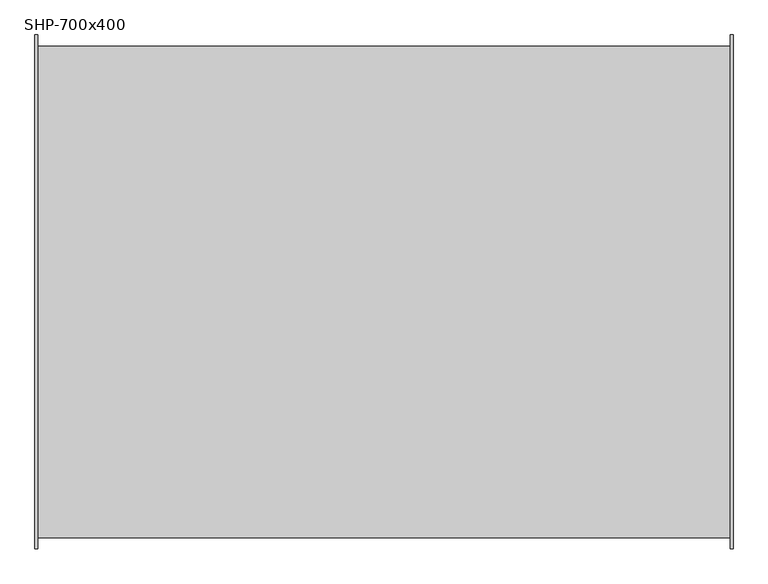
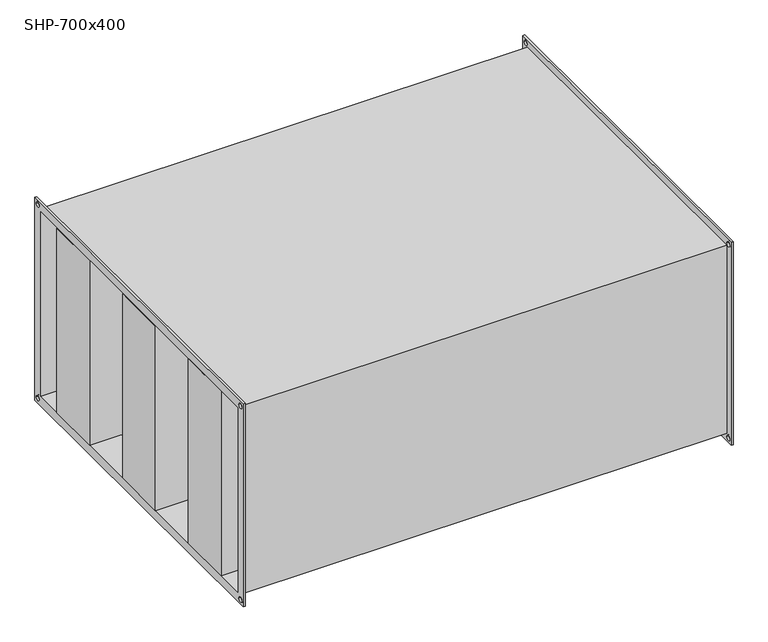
"""IFC4 building model written with IfcOpenShell, lengths in millimetres: damper geometry, СВ_Шумоглушитель_КанальныйПрямоугольный_200-1000_SHP : SHP-700x400."""

from ifc_helpers import new_model, si_unit, frame, origin, place, context, project, spatial, polyline, circle_curve, outline, extrude, source, transform, mapped, element, save
from ifc_brep_helpers import plane_surface, revolved_surface, advanced_brep


def shp_700x400_b8248500(model_context):
    return source(origin(), model_context, "Body", "SolidModel", [
        extrude(outline(polyline([(502.5, 291.6666667), (502.5, 175.0), (-502.5, 175.0), (-502.5, 291.6666667), (502.5, 291.6666667)])), frame((0.0, 0.0, -200.0), z_axis=(0.0, 0.0, 1.0), x_axis=(1.0, 0.0, 0.0)), (0.0, 0.0, 1.0), 400.0),
        extrude(outline(polyline([(502.5, 58.3333333), (502.5, -58.3333333), (-502.5, -58.3333333), (-502.5, 58.3333333), (502.5, 58.3333333)])), frame((0.0, 0.0, -200.0), z_axis=(0.0, 0.0, 1.0), x_axis=(1.0, 0.0, 0.0)), (0.0, 0.0, 1.0), 400.0),
        extrude(outline(polyline([(502.5, -175.0), (502.5, -291.6666667), (-502.5, -291.6666667), (-502.5, -175.0), (502.5, -175.0)])), frame((0.0, 0.0, -200.0), z_axis=(0.0, 0.0, 1.0), x_axis=(1.0, 0.0, 0.0)), (0.0, 0.0, 1.0), 400.0),
        advanced_brep(
        [(498.5, -354.0, 204.0), (-498.5, -354.0, 204.0), (-498.5, -354.0, -204.0), (498.5, -354.0, -204.0), (-498.5, 354.0, -204.0), (498.5, 354.0, -204.0), (-498.5, 354.0, 204.0), (498.5, 354.0, 204.0), (-502.5, -370.0, 220.0), (-502.5, 370.0, 220.0), (-502.5, 370.0, -220.0), (-502.5, -370.0, -220.0), (-502.5, -350.0, 200.0), (-502.5, -350.0, -200.0), (-502.5, 350.0, -200.0), (-502.5, 350.0, 200.0), (-502.5, 355.0, 210.0), (-502.5, 365.0, 210.0), (-502.5, -365.0, 210.0), (-502.5, -355.0, 210.0), (-502.5, -365.0, -210.0), (-502.5, -355.0, -210.0), (-502.5, 355.0, -210.0), (-502.5, 365.0, -210.0), (-498.5, -370.0, 220.0), (-498.5, -370.0, -220.0), (-498.5, 370.0, -220.0), (-498.5, 370.0, 220.0), (-498.5, 365.0, 210.0), (-498.5, 355.0, 210.0), (-498.5, -355.0, 210.0), (-498.5, -365.0, 210.0), (-498.5, -355.0, -210.0), (-498.5, -365.0, -210.0), (-498.5, 365.0, -210.0), (-498.5, 355.0, -210.0), (498.5, 370.0, 220.0), (498.5, 370.0, -220.0), (498.5, -370.0, -220.0), (498.5, -370.0, 220.0), (498.5, 355.0, 210.0), (498.5, 365.0, 210.0), (498.5, -365.0, 210.0), (498.5, -355.0, 210.0), (498.5, -365.0, -210.0), (498.5, -355.0, -210.0), (498.5, 355.0, -210.0), (498.5, 365.0, -210.0), (502.5, 370.0, 220.0), (502.5, -370.0, 220.0), (502.5, -370.0, -220.0), (502.5, 370.0, -220.0), (502.5, 350.0, 200.0), (502.5, 350.0, -200.0), (502.5, -350.0, -200.0), (502.5, -350.0, 200.0), (502.5, 365.0, 210.0), (502.5, 355.0, 210.0), (502.5, -355.0, 210.0), (502.5, -365.0, 210.0), (502.5, -355.0, -210.0), (502.5, -365.0, -210.0), (502.5, 365.0, -210.0), (502.5, 355.0, -210.0)],
        [
            (0, 1),
            (1, 2),
            (2, 3),
            (3, 0),
            (2, 4),
            (4, 5),
            (5, 3),
            (4, 6),
            (6, 7),
            (7, 5),
            (0, 7),
            (6, 1),
            (8, 9),
            (9, 10),
            (10, 11),
            (11, 8),
            (12, 13),
            (13, 14),
            (14, 15),
            (15, 12),
            (16, 17, circle_curve(frame((-502.5, 360.0, 210.0), z_axis=(1.0, 0.0, 0.0), x_axis=(0.0, 1.0, 0.0)), 5.0)),
            (17, 16, circle_curve(frame((-502.5, 360.0, 210.0), z_axis=(1.0, 0.0, 0.0), x_axis=(0.0, 1.0, 0.0)), 5.0)),
            (18, 19, circle_curve(frame((-502.5, -360.0, 210.0), z_axis=(1.0, 0.0, 0.0), x_axis=(0.0, 1.0, 0.0)), 5.0)),
            (19, 18, circle_curve(frame((-502.5, -360.0, 210.0), z_axis=(1.0, 0.0, 0.0), x_axis=(0.0, 1.0, 0.0)), 5.0)),
            (20, 21, circle_curve(frame((-502.5, -360.0, -210.0), z_axis=(1.0, 0.0, 0.0), x_axis=(0.0, 1.0, 0.0)), 5.0)),
            (21, 20, circle_curve(frame((-502.5, -360.0, -210.0), z_axis=(1.0, 0.0, 0.0), x_axis=(0.0, 1.0, 0.0)), 5.0)),
            (22, 23, circle_curve(frame((-502.5, 360.0, -210.0), z_axis=(1.0, 0.0, 0.0), x_axis=(0.0, 1.0, 0.0)), 5.0)),
            (23, 22, circle_curve(frame((-502.5, 360.0, -210.0), z_axis=(1.0, 0.0, 0.0), x_axis=(0.0, 1.0, 0.0)), 5.0)),
            (24, 25),
            (25, 26),
            (26, 27),
            (27, 24),
            (28, 29, circle_curve(frame((-498.5, 360.0, 210.0), z_axis=(-1.0, 0.0, 0.0), x_axis=(0.0, 1.0, 0.0)), 5.0)),
            (29, 28, circle_curve(frame((-498.5, 360.0, 210.0), z_axis=(-1.0, 0.0, 0.0), x_axis=(0.0, 1.0, 0.0)), 5.0)),
            (30, 31, circle_curve(frame((-498.5, -360.0, 210.0), z_axis=(-1.0, 0.0, 0.0), x_axis=(0.0, 1.0, 0.0)), 5.0)),
            (31, 30, circle_curve(frame((-498.5, -360.0, 210.0), z_axis=(-1.0, 0.0, 0.0), x_axis=(0.0, 1.0, 0.0)), 5.0)),
            (32, 33, circle_curve(frame((-498.5, -360.0, -210.0), z_axis=(-1.0, 0.0, 0.0), x_axis=(0.0, 1.0, 0.0)), 5.0)),
            (33, 32, circle_curve(frame((-498.5, -360.0, -210.0), z_axis=(-1.0, 0.0, 0.0), x_axis=(0.0, 1.0, 0.0)), 5.0)),
            (34, 35, circle_curve(frame((-498.5, 360.0, -210.0), z_axis=(-1.0, 0.0, 0.0), x_axis=(0.0, 1.0, 0.0)), 5.0)),
            (35, 34, circle_curve(frame((-498.5, 360.0, -210.0), z_axis=(-1.0, 0.0, 0.0), x_axis=(0.0, 1.0, 0.0)), 5.0)),
            (11, 25),
            (24, 8),
            (10, 26),
            (9, 27),
            (36, 37),
            (37, 38),
            (38, 39),
            (39, 36),
            (40, 41, circle_curve(frame((498.5, 360.0, 210.0), z_axis=(1.0, 0.0, 0.0), x_axis=(0.0, 1.0, 0.0)), 5.0)),
            (41, 40, circle_curve(frame((498.5, 360.0, 210.0), z_axis=(1.0, 0.0, 0.0), x_axis=(0.0, 1.0, 0.0)), 5.0)),
            (42, 43, circle_curve(frame((498.5, -360.0, 210.0), z_axis=(1.0, 0.0, 0.0), x_axis=(0.0, 1.0, 0.0)), 5.0)),
            (43, 42, circle_curve(frame((498.5, -360.0, 210.0), z_axis=(1.0, 0.0, 0.0), x_axis=(0.0, 1.0, 0.0)), 5.0)),
            (44, 45, circle_curve(frame((498.5, -360.0, -210.0), z_axis=(1.0, 0.0, 0.0), x_axis=(0.0, 1.0, 0.0)), 5.0)),
            (45, 44, circle_curve(frame((498.5, -360.0, -210.0), z_axis=(1.0, 0.0, 0.0), x_axis=(0.0, 1.0, 0.0)), 5.0)),
            (46, 47, circle_curve(frame((498.5, 360.0, -210.0), z_axis=(1.0, 0.0, 0.0), x_axis=(0.0, 1.0, 0.0)), 5.0)),
            (47, 46, circle_curve(frame((498.5, 360.0, -210.0), z_axis=(1.0, 0.0, 0.0), x_axis=(0.0, 1.0, 0.0)), 5.0)),
            (48, 49),
            (49, 50),
            (50, 51),
            (51, 48),
            (52, 53),
            (53, 54),
            (54, 55),
            (55, 52),
            (56, 57, circle_curve(frame((502.5, 360.0, 210.0), z_axis=(-1.0, 0.0, 0.0), x_axis=(0.0, 1.0, 0.0)), 5.0)),
            (57, 56, circle_curve(frame((502.5, 360.0, 210.0), z_axis=(-1.0, 0.0, 0.0), x_axis=(0.0, 1.0, 0.0)), 5.0)),
            (58, 59, circle_curve(frame((502.5, -360.0, 210.0), z_axis=(-1.0, 0.0, 0.0), x_axis=(0.0, 1.0, 0.0)), 5.0)),
            (59, 58, circle_curve(frame((502.5, -360.0, 210.0), z_axis=(-1.0, 0.0, 0.0), x_axis=(0.0, 1.0, 0.0)), 5.0)),
            (60, 61, circle_curve(frame((502.5, -360.0, -210.0), z_axis=(-1.0, 0.0, 0.0), x_axis=(0.0, 1.0, 0.0)), 5.0)),
            (61, 60, circle_curve(frame((502.5, -360.0, -210.0), z_axis=(-1.0, 0.0, 0.0), x_axis=(0.0, 1.0, 0.0)), 5.0)),
            (62, 63, circle_curve(frame((502.5, 360.0, -210.0), z_axis=(-1.0, 0.0, 0.0), x_axis=(0.0, 1.0, 0.0)), 5.0)),
            (63, 62, circle_curve(frame((502.5, 360.0, -210.0), z_axis=(-1.0, 0.0, 0.0), x_axis=(0.0, 1.0, 0.0)), 5.0)),
            (39, 49),
            (48, 36),
            (38, 50),
            (37, 51),
            (15, 52),
            (55, 12),
            (14, 53),
            (13, 54),
            (16, 29),
            (28, 17),
            (40, 57),
            (56, 41),
            (18, 31),
            (30, 19),
            (42, 59),
            (58, 43),
            (20, 33),
            (32, 21),
            (44, 61),
            (60, 45),
            (22, 35),
            (34, 23),
            (46, 63),
            (62, 47),
        ],
        [
            plane_surface(frame((498.5, -354.0, 204.0), z_axis=(0.0, -1.0, 0.0), x_axis=(-1.0, 0.0, 0.0))),
            plane_surface(frame((498.5, -354.0, -204.0), z_axis=(0.0, 0.0, -1.0), x_axis=(-1.0, 0.0, 0.0))),
            plane_surface(frame((498.5, 354.0, -204.0), z_axis=(0.0, 1.0, 0.0), x_axis=(-1.0, 0.0, 0.0))),
            plane_surface(frame((498.5, 354.0, 204.0), z_axis=(0.0, 0.0, 1.0), x_axis=(-1.0, 0.0, 0.0))),
            plane_surface(frame((-502.5, -370.0, 220.0), z_axis=(-1.0, 0.0, 0.0), x_axis=(0.0, 0.0, 1.0))),
            plane_surface(frame((-498.5, -370.0, 220.0), z_axis=(1.0, 0.0, 0.0), x_axis=(0.0, 0.0, -1.0))),
            plane_surface(frame((-498.5, -370.0, 220.0), z_axis=(0.0, -1.0, 0.0), x_axis=(-1.0, 0.0, 0.0))),
            plane_surface(frame((-498.5, -370.0, -220.0), z_axis=(0.0, 0.0, -1.0), x_axis=(-1.0, 0.0, 0.0))),
            plane_surface(frame((-498.5, 370.0, -220.0), z_axis=(0.0, 1.0, 0.0), x_axis=(-1.0, 0.0, 0.0))),
            plane_surface(frame((-498.5, 370.0, 220.0), z_axis=(0.0, 0.0, 1.0), x_axis=(-1.0, 0.0, 0.0))),
            plane_surface(frame((498.5, 350.0, -200.0), z_axis=(-1.0, 0.0, 0.0), x_axis=(0.0, 0.0, 1.0))),
            plane_surface(frame((502.5, 350.0, -200.0), z_axis=(1.0, 0.0, 0.0), x_axis=(0.0, 0.0, -1.0))),
            plane_surface(frame((502.5, 370.0, 220.0), z_axis=(0.0, 0.0, 1.0), x_axis=(-1.0, 0.0, 0.0))),
            plane_surface(frame((502.5, -370.0, 220.0), z_axis=(0.0, -1.0, 0.0), x_axis=(-1.0, 0.0, 0.0))),
            plane_surface(frame((502.5, -370.0, -220.0), z_axis=(0.0, 0.0, -1.0), x_axis=(-1.0, 0.0, 0.0))),
            plane_surface(frame((502.5, 370.0, -220.0), z_axis=(0.0, 1.0, 0.0), x_axis=(-1.0, 0.0, 0.0))),
            plane_surface(frame((-498.5, -350.0, 200.0), z_axis=(0.0, 0.0, -1.0), x_axis=(-1.0, 0.0, 0.0))),
            plane_surface(frame((-498.5, 350.0, 200.0), z_axis=(0.0, -1.0, 0.0), x_axis=(-1.0, 0.0, 0.0))),
            plane_surface(frame((-498.5, 350.0, -200.0), z_axis=(0.0, 0.0, 1.0), x_axis=(-1.0, 0.0, 0.0))),
            plane_surface(frame((-498.5, -350.0, -200.0), z_axis=(0.0, 1.0, 0.0), x_axis=(-1.0, 0.0, 0.0))),
            revolved_surface(polyline([(-498.5, 365.0, 210.0), (-502.5, 365.0, 210.0)]), (-502.5, 360.0, 210.0), (1.0, 0.0, 0.0)),
            revolved_surface(polyline([(502.5, 365.0, 210.0), (498.5, 365.0, 210.0)]), (-502.5, 360.0, 210.0), (1.0, 0.0, 0.0)),
            revolved_surface(polyline([(-498.5, -355.0, 210.0), (-502.5, -355.0, 210.0)]), (0.0, -360.0, 210.0), (1.0, 0.0, 0.0)),
            revolved_surface(polyline([(502.5, -355.0, 210.0), (498.5, -355.0, 210.0)]), (0.0, -360.0, 210.0), (1.0, 0.0, 0.0)),
            revolved_surface(polyline([(-498.5, -355.0, -210.0), (-502.5, -355.0, -210.0)]), (0.0, -360.0, -210.0), (1.0, 0.0, 0.0)),
            revolved_surface(polyline([(502.5, -355.0, -210.0), (498.5, -355.0, -210.0)]), (0.0, -360.0, -210.0), (1.0, 0.0, 0.0)),
            revolved_surface(polyline([(-498.5, 365.0, -210.0), (-502.5, 365.0, -210.0)]), (0.0, 360.0, -210.0), (1.0, 0.0, 0.0)),
            revolved_surface(polyline([(502.5, 365.0, -210.0), (498.5, 365.0, -210.0)]), (0.0, 360.0, -210.0), (1.0, 0.0, 0.0)),
        ],
        [
            (0, [[1, 2, 3, 4]]),
            (1, [[-3, 5, 6, 7]]),
            (2, [[-6, 8, 9, 10]]),
            (3, [[-1, 11, -9, 12]]),
            (4, [[13, 14, 15, 16], [17, 18, 19, 20], [21, 22], [23, 24], [25, 26], [27, 28]]),
            (5, [[29, 30, 31, 32], [-2, -12, -8, -5], [33, 34], [35, 36], [37, 38], [39, 40]]),
            (6, [[-16, 41, -29, 42]]),
            (7, [[-15, 43, -30, -41]]),
            (8, [[-14, 44, -31, -43]]),
            (9, [[-13, -42, -32, -44]]),
            (10, [[45, 46, 47, 48], [-4, -7, -10, -11], [49, 50], [51, 52], [53, 54], [55, 56]]),
            (11, [[57, 58, 59, 60], [61, 62, 63, 64], [65, 66], [67, 68], [69, 70], [71, 72]]),
            (12, [[-48, 73, -57, 74]]),
            (13, [[-47, 75, -58, -73]]),
            (14, [[-46, 76, -59, -75]]),
            (15, [[-45, -74, -60, -76]]),
            (16, [[-20, 77, -64, 78]]),
            (17, [[-77, -19, 79, -61]]),
            (18, [[-79, -18, 80, -62]]),
            (19, [[-80, -17, -78, -63]]),
            (20, [[81, -33, 82, -21]]),
            (21, [[83, -65, 84, -49]]),
            (20, [[-81, -22, -82, -34]]),
            (21, [[-83, -50, -84, -66]]),
            (22, [[85, -35, 86, -23]]),
            (23, [[87, -67, 88, -51]]),
            (22, [[-85, -24, -86, -36]]),
            (23, [[-87, -52, -88, -68]]),
            (24, [[89, -37, 90, -25]]),
            (25, [[91, -69, 92, -53]]),
            (24, [[-89, -26, -90, -38]]),
            (25, [[-91, -54, -92, -70]]),
            (26, [[93, -39, 94, -27]]),
            (27, [[95, -71, 96, -55]]),
            (26, [[-93, -28, -94, -40]]),
            (27, [[-95, -56, -96, -72]]),
        ],
    ),
    ])


if __name__ == "__main__":
    model = new_model("IFC4")
    model_context = context("Model", 3, world=origin())
    ifc_project = project(units=[si_unit("LENGTHUNIT", "METRE", prefix="MILLI")], contexts=[model_context])
    site = spatial("IfcSite", under=ifc_project)
    building = spatial("IfcBuilding", under=site)
    placement = place(None, origin())
    shp_700x400_shape = shp_700x400_b8248500(model_context)
    element("IfcDamper", 1, ObjectType="СВ_Шумоглушитель_КанальныйПрямоугольный_200-1000_SHP : SHP-700x400", at=placement, inside=building, context=model_context, shape_type="MappedRepresentation", body=[
        mapped(shp_700x400_shape, transform((0.0, 0.0, 0.0), x_axis=(1.0, 0.0, 0.0), y_axis=(0.0, 1.0, 0.0), z_axis=(0.0, 0.0, 1.0))),
    ])
    save(model, "model.ifc")
